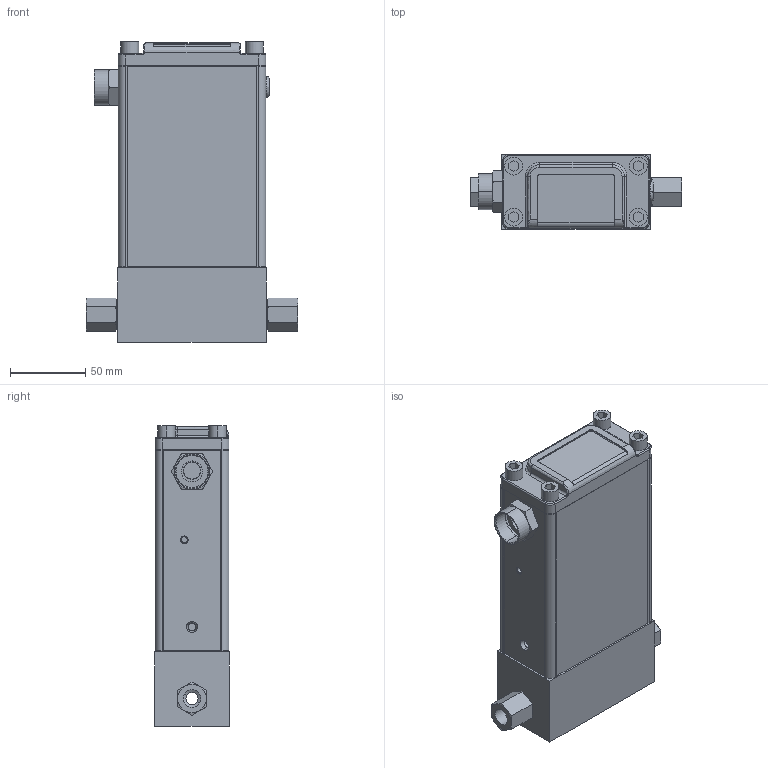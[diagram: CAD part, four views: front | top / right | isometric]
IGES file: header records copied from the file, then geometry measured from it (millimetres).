
Start section: SolidWorks IGES file using analytic representation for surfaces
Global section: file name: G:\Engineering\CAD MODELS FOR SALES\CAD MODEL STORAGE\SLA\SLAMF60\CUSTOMER FILES\IGES\SLAMF60-S-G1-0-K-REVB.IGS; native system: SolidWorks 2020; preprocessor: SolidWorks 2020; author: CFehr; date: 220713.100947; units: inch
Bounding box: 140.76 x 49.5 x 199.98 mm (x, y, z)
Volume: 403540.9 mm3; surface area: 161391.8 mm2
Topology: 12 solids, 12 shells, 493 faces, 1184 edges, 748 vertices
Faces by surface type: revolution 284, plane 185, bspline 24
